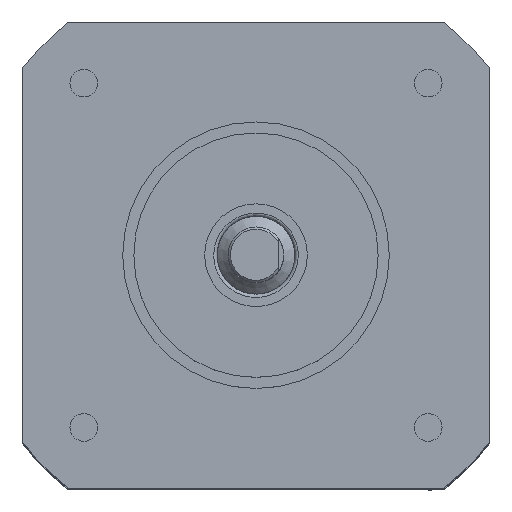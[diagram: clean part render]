
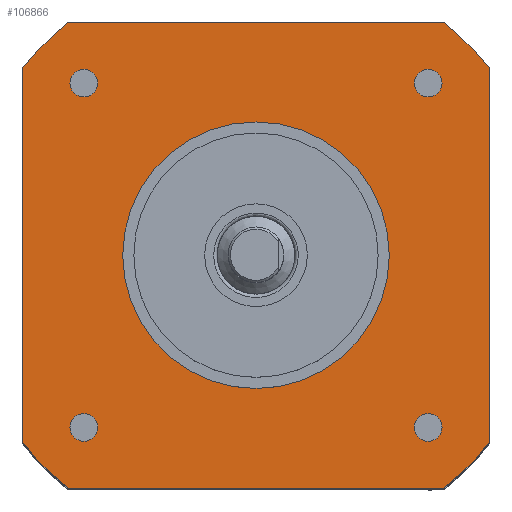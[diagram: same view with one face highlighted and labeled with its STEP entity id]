
A CAD part, top view. The second image highlights one B-rep face of the part: STEP entity #106866.
In plain terms, the highlighted planar face has unit normal (0, 0, 1).
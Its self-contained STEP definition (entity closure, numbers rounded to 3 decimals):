
#574 = CARTESIAN_POINT ( 'NONE',  ( -15.5, 5.5, -2. ) ) ;
#617 = ORIENTED_EDGE ( 'NONE', *, *, #85851, .F. ) ;
#2300 = CIRCLE ( 'NONE', #117876, 1.25 ) ;
#2801 = EDGE_CURVE ( 'NONE', #165604, #96590, #100834, .T. ) ;
#9257 = DIRECTION ( 'NONE',  ( 0., 0., 1. ) ) ;
#9865 = CIRCLE ( 'NONE', #94988, 26.95 ) ;
#13797 = EDGE_CURVE ( 'NONE', #67266, #67266, #2300, .T. ) ;
#16700 = VERTEX_POINT ( 'NONE', #18399 ) ;
#18399 = CARTESIAN_POINT ( 'NONE',  ( -19., 21., -2. ) ) ;
#18812 = VERTEX_POINT ( 'NONE', #41150 ) ;
#20517 = CARTESIAN_POINT ( 'NONE',  ( -14.25, 36.5, -2. ) ) ;
#22511 = ORIENTED_EDGE ( 'NONE', *, *, #148460, .F. ) ;
#25457 = LINE ( 'NONE', #79636, #168425 ) ;
#26453 = CARTESIAN_POINT ( 'NONE',  ( -52., 37.891, -2. ) ) ;
#28409 = ORIENTED_EDGE ( 'NONE', *, *, #117722, .F. ) ;
#29457 = VERTEX_POINT ( 'NONE', #102722 ) ;
#30423 = VERTEX_POINT ( 'NONE', #130766 ) ;
#34795 = CARTESIAN_POINT ( 'NONE',  ( -47.891, 42., -2. ) ) ;
#37798 = CARTESIAN_POINT ( 'NONE',  ( -31., 21., -2. ) ) ;
#39024 = DIRECTION ( 'NONE',  ( 0., 0., -1. ) ) ;
#41150 = CARTESIAN_POINT ( 'NONE',  ( -10., 37.891, -2. ) ) ;
#44311 = CARTESIAN_POINT ( 'NONE',  ( -31., 21., -2. ) ) ;
#45657 = CARTESIAN_POINT ( 'NONE',  ( -31., 21., -2. ) ) ;
#47141 = VERTEX_POINT ( 'NONE', #20517 ) ;
#47433 = VECTOR ( 'NONE', #78933, 1000. ) ;
#48014 = AXIS2_PLACEMENT_3D ( 'NONE', #574, #66790, #170199 ) ;
#48143 = FACE_BOUND ( 'NONE', #63914, .T. ) ;
#48849 = VECTOR ( 'NONE', #90456, 1000. ) ;
#50144 = CARTESIAN_POINT ( 'NONE',  ( -14.25, 5.5, -2. ) ) ;
#50488 = CARTESIAN_POINT ( 'NONE',  ( -46.5, 5.5, -2. ) ) ;
#51146 = DIRECTION ( 'NONE',  ( 0., -1., 0. ) ) ;
#51523 = FACE_OUTER_BOUND ( 'NONE', #95405, .T. ) ;
#55422 = EDGE_LOOP ( 'NONE', ( #135012 ) ) ;
#61036 = FACE_BOUND ( 'NONE', #96080, .T. ) ;
#61217 = CARTESIAN_POINT ( 'NONE',  ( -47.891, 0., -2. ) ) ;
#62697 = AXIS2_PLACEMENT_3D ( 'NONE', #99656, #152224, #100478 ) ;
#63824 = VERTEX_POINT ( 'NONE', #159579 ) ;
#63914 = EDGE_LOOP ( 'NONE', ( #28409 ) ) ;
#64161 = DIRECTION ( 'NONE',  ( 1., 0., 0. ) ) ;
#64187 = CIRCLE ( 'NONE', #119177, 12. ) ;
#65334 = DIRECTION ( 'NONE',  ( 1., 0., 0. ) ) ;
#66790 = DIRECTION ( 'NONE',  ( 0., 0., 1. ) ) ;
#67266 = VERTEX_POINT ( 'NONE', #144851 ) ;
#67378 = AXIS2_PLACEMENT_3D ( 'NONE', #45657, #164530, #71465 ) ;
#68423 = VECTOR ( 'NONE', #51146, 1000. ) ;
#71465 = DIRECTION ( 'NONE',  ( 1., 0., 0. ) ) ;
#73249 = CARTESIAN_POINT ( 'NONE',  ( -10., 4.109, -2. ) ) ;
#74249 = VERTEX_POINT ( 'NONE', #85498 ) ;
#76494 = DIRECTION ( 'NONE',  ( 0., 0., 1. ) ) ;
#76572 = CIRCLE ( 'NONE', #87635, 26.95 ) ;
#77993 = ORIENTED_EDGE ( 'NONE', *, *, #88717, .F. ) ;
#78933 = DIRECTION ( 'NONE',  ( 0., 1., 0. ) ) ;
#79636 = CARTESIAN_POINT ( 'NONE',  ( -47.891, 42., -2. ) ) ;
#80214 = VERTEX_POINT ( 'NONE', #50144 ) ;
#80576 = EDGE_CURVE ( 'NONE', #132991, #165604, #141672, .T. ) ;
#83776 = CIRCLE ( 'NONE', #48014, 1.25 ) ;
#83918 = DIRECTION ( 'NONE',  ( 0., 0., -1. ) ) ;
#85498 = CARTESIAN_POINT ( 'NONE',  ( -45.25, 5.5, -2. ) ) ;
#85585 = ORIENTED_EDGE ( 'NONE', *, *, #145534, .F. ) ;
#85851 = EDGE_CURVE ( 'NONE', #63824, #128903, #76572, .T. ) ;
#87081 = DIRECTION ( 'NONE',  ( 0., 0., 1. ) ) ;
#87552 = CIRCLE ( 'NONE', #62697, 26.95 ) ;
#87635 = AXIS2_PLACEMENT_3D ( 'NONE', #157842, #39024, #88934 ) ;
#87734 = FACE_BOUND ( 'NONE', #123698, .T. ) ;
#88717 = EDGE_CURVE ( 'NONE', #18812, #132991, #155383, .T. ) ;
#88934 = DIRECTION ( 'NONE',  ( 1., 0., 0. ) ) ;
#89556 = ORIENTED_EDGE ( 'NONE', *, *, #119701, .F. ) ;
#90456 = DIRECTION ( 'NONE',  ( -1., 0., 0. ) ) ;
#93464 = ORIENTED_EDGE ( 'NONE', *, *, #2801, .F. ) ;
#94988 = AXIS2_PLACEMENT_3D ( 'NONE', #44311, #83918, #95980 ) ;
#95405 = EDGE_LOOP ( 'NONE', ( #85585, #617, #116824, #130717, #93464, #145408, #77993, #89556 ) ) ;
#95980 = DIRECTION ( 'NONE',  ( 1., 0., 0. ) ) ;
#96080 = EDGE_LOOP ( 'NONE', ( #22511 ) ) ;
#96590 = VERTEX_POINT ( 'NONE', #127830 ) ;
#99656 = CARTESIAN_POINT ( 'NONE',  ( -31., 21., -2. ) ) ;
#100478 = DIRECTION ( 'NONE',  ( 1., 0., 0. ) ) ;
#100834 = LINE ( 'NONE', #61217, #48849 ) ;
#101183 = EDGE_LOOP ( 'NONE', ( #116941 ) ) ;
#102722 = CARTESIAN_POINT ( 'NONE',  ( -52., 4.109, -2. ) ) ;
#104082 = DIRECTION ( 'NONE',  ( 1., 0., 0. ) ) ;
#106866 = ADVANCED_FACE ( 'NONE', ( #48143, #153223, #61036, #166154, #87734, #51523 ), #155769, .T. ) ;
#111253 = CARTESIAN_POINT ( 'NONE',  ( -15.5, 36.5, -2. ) ) ;
#112512 = EDGE_CURVE ( 'NONE', #29457, #63824, #144433, .T. ) ;
#115097 = DIRECTION ( 'NONE',  ( 1., 0., 0. ) ) ;
#116638 = AXIS2_PLACEMENT_3D ( 'NONE', #111253, #87081, #150850 ) ;
#116824 = ORIENTED_EDGE ( 'NONE', *, *, #112512, .F. ) ;
#116941 = ORIENTED_EDGE ( 'NONE', *, *, #13797, .F. ) ;
#117722 = EDGE_CURVE ( 'NONE', #47141, #47141, #155147, .T. ) ;
#117876 = AXIS2_PLACEMENT_3D ( 'NONE', #163860, #163003, #149218 ) ;
#118045 = AXIS2_PLACEMENT_3D ( 'NONE', #37798, #76494, #104082 ) ;
#119108 = CIRCLE ( 'NONE', #130055, 1.25 ) ;
#119177 = AXIS2_PLACEMENT_3D ( 'NONE', #129135, #154973, #65334 ) ;
#119701 = EDGE_CURVE ( 'NONE', #30423, #18812, #9865, .T. ) ;
#121839 = CARTESIAN_POINT ( 'NONE',  ( -14.109, 0., -2. ) ) ;
#123698 = EDGE_LOOP ( 'NONE', ( #159254 ) ) ;
#127830 = CARTESIAN_POINT ( 'NONE',  ( -47.891, 0., -2. ) ) ;
#128903 = VERTEX_POINT ( 'NONE', #34795 ) ;
#129135 = CARTESIAN_POINT ( 'NONE',  ( -31., 21., -2. ) ) ;
#130055 = AXIS2_PLACEMENT_3D ( 'NONE', #50488, #9257, #115097 ) ;
#130717 = ORIENTED_EDGE ( 'NONE', *, *, #158389, .F. ) ;
#130766 = CARTESIAN_POINT ( 'NONE',  ( -14.109, 42., -2. ) ) ;
#132991 = VERTEX_POINT ( 'NONE', #73249 ) ;
#135012 = ORIENTED_EDGE ( 'NONE', *, *, #168960, .F. ) ;
#141654 = EDGE_CURVE ( 'NONE', #16700, #16700, #64187, .T. ) ;
#141672 = CIRCLE ( 'NONE', #67378, 26.95 ) ;
#144433 = LINE ( 'NONE', #26453, #47433 ) ;
#144851 = CARTESIAN_POINT ( 'NONE',  ( -45.25, 36.5, -2. ) ) ;
#145408 = ORIENTED_EDGE ( 'NONE', *, *, #80576, .F. ) ;
#145534 = EDGE_CURVE ( 'NONE', #128903, #30423, #25457, .T. ) ;
#148460 = EDGE_CURVE ( 'NONE', #74249, #74249, #119108, .T. ) ;
#149218 = DIRECTION ( 'NONE',  ( 1., 0., 0. ) ) ;
#150850 = DIRECTION ( 'NONE',  ( 1., 0., 0. ) ) ;
#152224 = DIRECTION ( 'NONE',  ( 0., 0., -1. ) ) ;
#153223 = FACE_BOUND ( 'NONE', #55422, .T. ) ;
#154529 = CARTESIAN_POINT ( 'NONE',  ( -10., 37.891, -2. ) ) ;
#154973 = DIRECTION ( 'NONE',  ( 0., 0., 1. ) ) ;
#155147 = CIRCLE ( 'NONE', #116638, 1.25 ) ;
#155383 = LINE ( 'NONE', #154529, #68423 ) ;
#155769 = PLANE ( 'NONE',  #118045 ) ;
#157842 = CARTESIAN_POINT ( 'NONE',  ( -31., 21., -2. ) ) ;
#158389 = EDGE_CURVE ( 'NONE', #96590, #29457, #87552, .T. ) ;
#159254 = ORIENTED_EDGE ( 'NONE', *, *, #141654, .F. ) ;
#159579 = CARTESIAN_POINT ( 'NONE',  ( -52., 37.891, -2. ) ) ;
#163003 = DIRECTION ( 'NONE',  ( 0., 0., 1. ) ) ;
#163860 = CARTESIAN_POINT ( 'NONE',  ( -46.5, 36.5, -2. ) ) ;
#164530 = DIRECTION ( 'NONE',  ( 0., 0., -1. ) ) ;
#165604 = VERTEX_POINT ( 'NONE', #121839 ) ;
#166154 = FACE_BOUND ( 'NONE', #101183, .T. ) ;
#168425 = VECTOR ( 'NONE', #64161, 1000. ) ;
#168960 = EDGE_CURVE ( 'NONE', #80214, #80214, #83776, .T. ) ;
#170199 = DIRECTION ( 'NONE',  ( 1., 0., 0. ) ) ;
